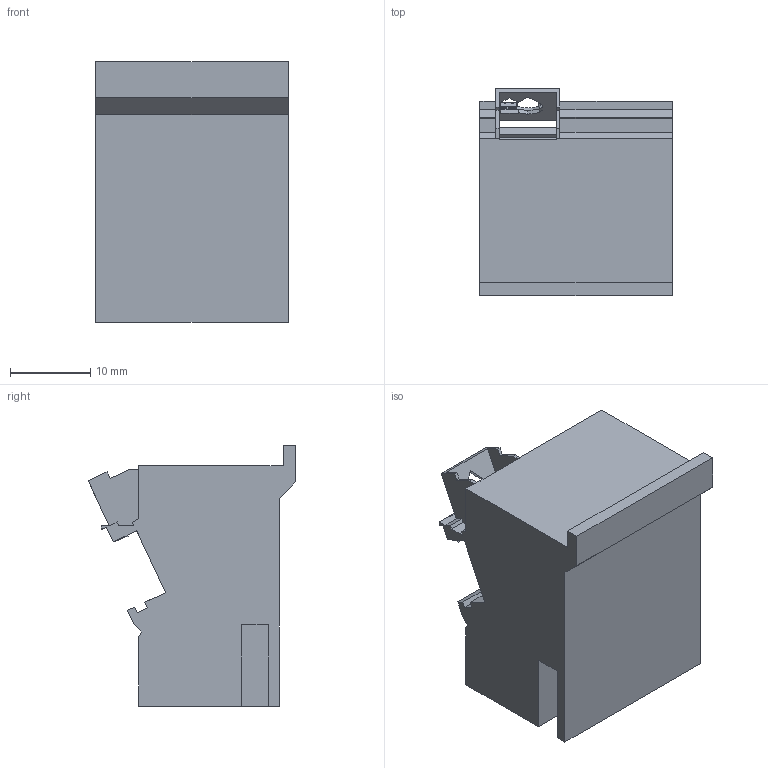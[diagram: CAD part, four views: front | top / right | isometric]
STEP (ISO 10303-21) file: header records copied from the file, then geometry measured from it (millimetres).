
FILE_DESCRIPTION(('Open CASCADE Model'),'2;1');
FILE_NAME('Open CASCADE Shape Model','2026-10-21T18:38:09',('Author'),( 'Open CASCADE'),'Open CASCADE STEP processor 8.0','build123d', 'Unknown');
FILE_SCHEMA(('AUTOMOTIVE_DESIGN { 1 0 10303 214 1 1 1 1 }'));
Length unit declared in the file: millimetre
Products named in the file (1): SOLID
Bounding box: 24 x 25.92 x 32.5 mm (x, y, z)
Volume: 12347.4 mm3; surface area: 4295.5 mm2
Topology: 1 solids, 1 shells, 177 faces, 502 edges, 324 vertices
Faces by surface type: plane 107, cylinder 69, bspline 1
Entity records: 13270 total; most frequent: CARTESIAN_POINT 3920, DIRECTION 1579, ORIENTED_EDGE 1004, PCURVE 1004, DEFINITIONAL_REPRESENTATION 1004, LINE 723, VECTOR 723, EDGE_CURVE 502
